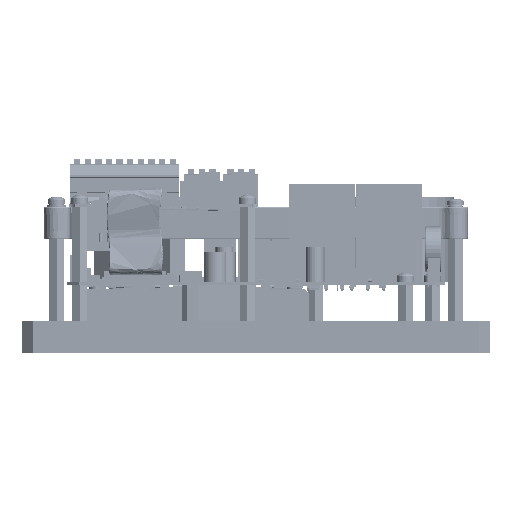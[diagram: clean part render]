
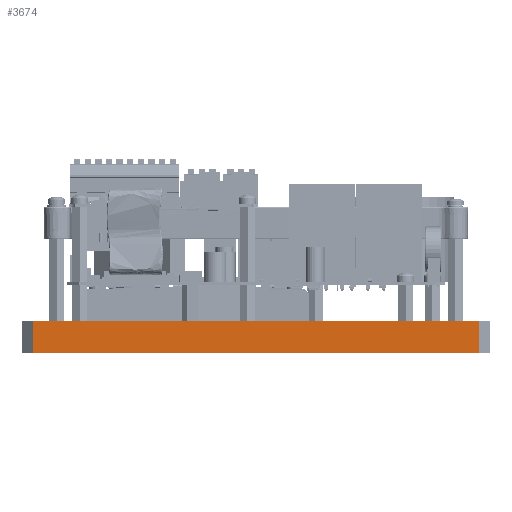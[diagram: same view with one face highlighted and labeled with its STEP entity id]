
A CAD part, left-side view. The second image highlights one B-rep face of the part: STEP entity #3674.
In plain terms, the highlighted planar face has unit normal (-1, 0, 0).
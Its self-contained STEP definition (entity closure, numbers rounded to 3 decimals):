
#3654=AXIS2_PLACEMENT_3D('Plane Axis2P3D',#3651,#3652,#3653) ;
#138=CARTESIAN_POINT('Vertex',(-281.493,104.987,12.)) ;
#141=CARTESIAN_POINT('Line Origine',(-281.493,-0.013,12.)) ;
#145=CARTESIAN_POINT('Vertex',(-281.493,-105.013,12.)) ;
#3632=CARTESIAN_POINT('Line Origine',(-281.493,-105.013,4.5)) ;
#3636=CARTESIAN_POINT('Vertex',(-281.493,-105.013,-3.)) ;
#3651=CARTESIAN_POINT('Axis2P3D Location',(-281.493,-110.013,-3.)) ;
#3656=CARTESIAN_POINT('Line Origine',(-281.493,104.987,4.5)) ;
#3660=CARTESIAN_POINT('Vertex',(-281.493,104.987,-3.)) ;
#3663=CARTESIAN_POINT('Line Origine',(-281.493,-0.013,-3.)) ;
#142=DIRECTION('Vector Direction',(0.,1.,0.)) ;
#3633=DIRECTION('Vector Direction',(0.,0.,-1.)) ;
#3652=DIRECTION('Axis2P3D Direction',(1.,0.,0.)) ;
#3653=DIRECTION('Axis2P3D XDirection',(0.,1.,0.)) ;
#3657=DIRECTION('Vector Direction',(0.,0.,1.)) ;
#3664=DIRECTION('Vector Direction',(0.,1.,0.)) ;
#143=VECTOR('Line Direction',#142,1.) ;
#3634=VECTOR('Line Direction',#3633,1.) ;
#3658=VECTOR('Line Direction',#3657,1.) ;
#3665=VECTOR('Line Direction',#3664,1.) ;
#3669=ORIENTED_EDGE('',*,*,#3662,.F.) ;
#3670=ORIENTED_EDGE('',*,*,#3667,.T.) ;
#3671=ORIENTED_EDGE('',*,*,#3638,.T.) ;
#3672=ORIENTED_EDGE('',*,*,#147,.T.) ;
#3674=ADVANCED_FACE('Heat_sink .Cold Plate BG C MET - .1\\PartBody',(#3673),#3655,.F.) ;
#147=EDGE_CURVE('',#146,#139,#144,.T.) ;
#3638=EDGE_CURVE('',#3637,#146,#3635,.F.) ;
#3662=EDGE_CURVE('',#3661,#139,#3659,.T.) ;
#3667=EDGE_CURVE('',#3661,#3637,#3666,.F.) ;
#3668=EDGE_LOOP('',(#3669,#3670,#3671,#3672)) ;
#3673=FACE_OUTER_BOUND('',#3668,.T.) ;
#144=LINE('Line',#141,#143) ;
#3635=LINE('Line',#3632,#3634) ;
#3659=LINE('Line',#3656,#3658) ;
#3666=LINE('Line',#3663,#3665) ;
#3655=PLANE('Plane',#3654) ;
#139=VERTEX_POINT('',#138) ;
#146=VERTEX_POINT('',#145) ;
#3637=VERTEX_POINT('',#3636) ;
#3661=VERTEX_POINT('',#3660) ;
